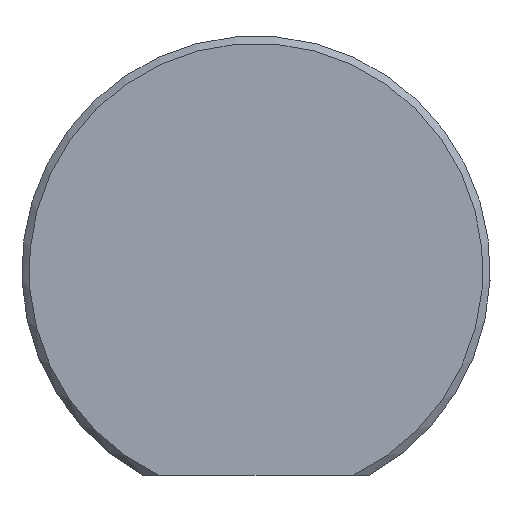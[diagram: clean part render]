
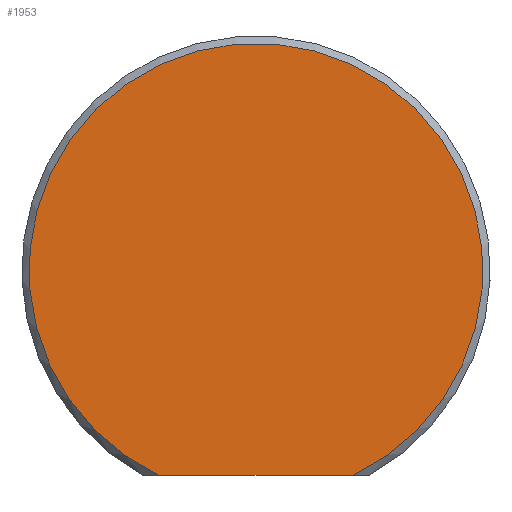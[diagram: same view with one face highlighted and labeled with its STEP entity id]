
A CAD part, front view. The second image highlights one B-rep face of the part: STEP entity #1953.
In plain terms, the highlighted planar face has unit normal (0, -1, 0).
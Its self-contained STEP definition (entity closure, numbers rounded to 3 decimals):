
#160 = VECTOR ( 'NONE', #1145, 1000. ) ;
#251 = LINE ( 'NONE', #938, #160 ) ;
#379 = CARTESIAN_POINT ( 'NONE',  ( 3.326, 0., -7. ) ) ;
#403 = AXIS2_PLACEMENT_3D ( 'NONE', #2524, #515, #1208 ) ;
#433 = ORIENTED_EDGE ( 'NONE', *, *, #1519, .T. ) ;
#515 = DIRECTION ( 'NONE',  ( 0., -1., 0. ) ) ;
#700 = EDGE_LOOP ( 'NONE', ( #2744, #433 ) ) ;
#708 = PLANE ( 'NONE',  #1048 ) ;
#753 = FACE_OUTER_BOUND ( 'NONE', #700, .T. ) ;
#938 = CARTESIAN_POINT ( 'NONE',  ( 0., 0., -7. ) ) ;
#1048 = AXIS2_PLACEMENT_3D ( 'NONE', #2499, #1595, #1640 ) ;
#1145 = DIRECTION ( 'NONE',  ( -1., 0., 0. ) ) ;
#1208 = DIRECTION ( 'NONE',  ( 0., 0., 1. ) ) ;
#1519 = EDGE_CURVE ( 'NONE', #1666, #1654, #2651, .T. ) ;
#1595 = DIRECTION ( 'NONE',  ( 0., 1., 0. ) ) ;
#1640 = DIRECTION ( 'NONE',  ( 0., 0., 1. ) ) ;
#1654 = VERTEX_POINT ( 'NONE', #2179 ) ;
#1666 = VERTEX_POINT ( 'NONE', #379 ) ;
#1953 = ADVANCED_FACE ( 'NONE', ( #753 ), #708, .F. ) ;
#2179 = CARTESIAN_POINT ( 'NONE',  ( -3.326, 0., -7. ) ) ;
#2462 = EDGE_CURVE ( 'NONE', #1666, #1654, #251, .T. ) ;
#2499 = CARTESIAN_POINT ( 'NONE',  ( 0., 0., 0. ) ) ;
#2524 = CARTESIAN_POINT ( 'NONE',  ( 0., 0., 0. ) ) ;
#2651 = CIRCLE ( 'NONE', #403, 7.75 ) ;
#2744 = ORIENTED_EDGE ( 'NONE', *, *, #2462, .F. ) ;
